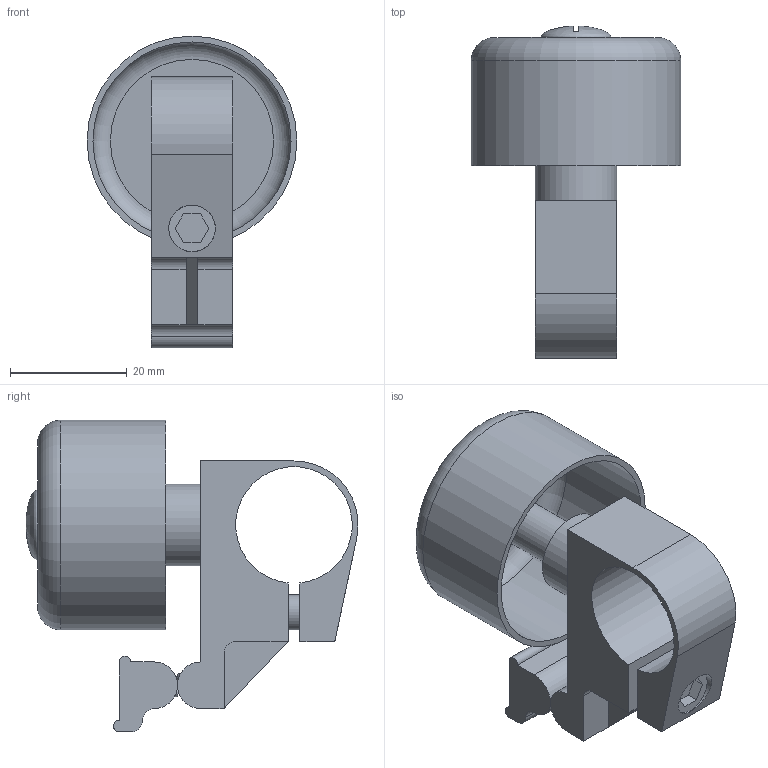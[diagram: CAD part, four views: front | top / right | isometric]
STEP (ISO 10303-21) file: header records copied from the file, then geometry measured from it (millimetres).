
FILE_DESCRIPTION(/* description */ ('','CAx-IF Rec.Pracs.---Representation and Presentation of Product Manufacturing Information (PMI)---4.0---2014-10-13'),/* implementation_level */ '2;1');
FILE_NAME(/* name */ 'ASSY_Bell_v2.obj.stp',/* time_stamp */ '2026-06-25T19:54:39+01:00',/* author */ ('Scott Hunter'),/* organization */ ('DesignClass'),/* preprocessor_version */ 'ST-DEVELOPER v20',/* originating_system */ 'Autodesk Inventor 2024',/* authorisation */ '');
FILE_SCHEMA (('AP242_MANAGED_MODEL_BASED_3D_ENGINEERING_MIM_LF { 1 0 10303 442 1 1 4 }'));
Length unit declared in the file: millimetre
Products named in the file (8): Assembly1; Spring; PRT_Bar_Clamp_V1; PRT_Bell_Dome_V1; PRT_Bell_Hammer_V1; PRT_Bell_Screw_V1; PRT_Bush_V1; PRT_Clamping_Screw_V1
Assembly tree (7 placements, depth 2):
  Assembly1
    Spring
    PRT_Bar_Clamp_V1
    PRT_Bell_Dome_V1
    PRT_Bell_Hammer_V1
    PRT_Bell_Screw_V1
    PRT_Bush_V1
    PRT_Clamping_Screw_V1
Bounding box: 36 x 56.98 x 53.5 mm (x, y, z)
Volume: 13574.2 mm3; surface area: 13741 mm2
Topology: 7 solids, 7 shells, 89 faces, 198 edges, 128 vertices
Faces by surface type: plane 50, cylinder 27, torus 6, cone 4, bspline 2
Full cylindrical faces by diameter (mm): 4 x2, 5.8 x1, 6 x7, 8 x4, 14 x1, 34 x1, 36 x1
Entity records: 5601 total; most frequent: CARTESIAN_POINT 2795, DIRECTION 640, ORIENTED_EDGE 392, AXIS2_PLACEMENT_3D 267, EDGE_CURVE 196, VERTEX_POINT 128, LINE 106, VECTOR 106
